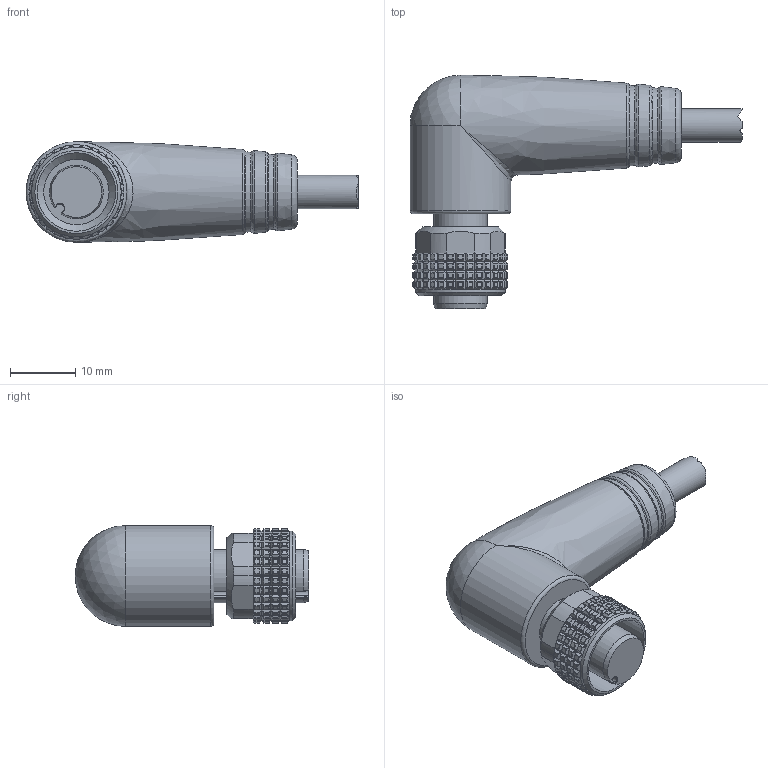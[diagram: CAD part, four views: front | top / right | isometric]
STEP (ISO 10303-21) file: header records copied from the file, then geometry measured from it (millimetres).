
FILE_DESCRIPTION((''),'2;1');
FILE_NAME('C:\Users\enrico\Desktop\Ale\Sito\AUTOMAZIONE_2020\FOTO & STEP Connettori circolari per sensori e attuatori\Singola testa\Step\M12 Fe ang 8 poli.stp','2020-06-29T09:07:44',('Tecnico2'),(''),'Autodesk Inventor 2012','Autodesk Inventor 2012','');
FILE_SCHEMA(('AUTOMOTIVE_DESIGN { 1 0 10303 214 1 1 1 1 }'));
Length unit declared in the file: millimetre
Products named in the file (3): C12F8B2; ghiera M12_FE_NON TECNICO_
Assembly tree (2 placements, depth 2):
  C12F8B2
    C12F8B2
    ghiera M12_FE_NON TECNICO_
Bounding box: 50.76 x 35.7 x 15.4 mm (x, y, z)
Volume: 8913.6 mm3; surface area: 3941.3 mm2
Topology: 2 solids, 2 shells, 2222 faces, 5040 edges, 2822 vertices
Faces by surface type: cylinder 971, plane 747, sphere 481, torus 11, bspline 8, cone 4
Full cylindrical faces by diameter (mm): 5.1 x1, 12 x1, 13.7 x1, 15.4 x1
Entity records: 61283 total; most frequent: DIRECTION 11739, CARTESIAN_POINT 10483, ORIENTED_EDGE 10016, EDGE_CURVE 5008, AXIS2_PLACEMENT_3D 4531, VERTEX_POINT 2815, VECTOR 2677, LINE 2677
